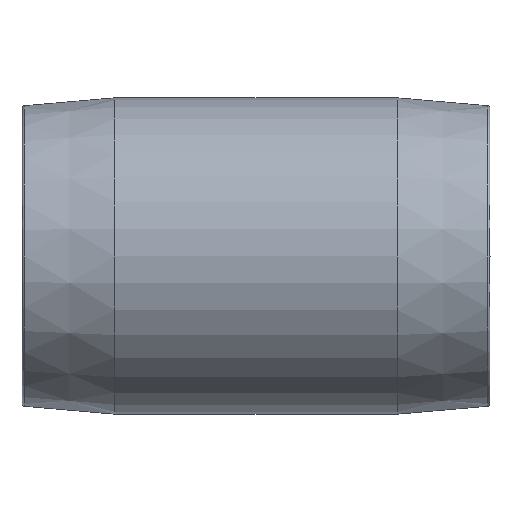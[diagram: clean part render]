
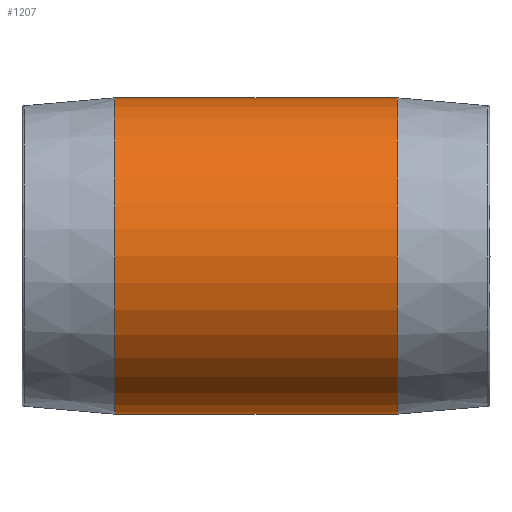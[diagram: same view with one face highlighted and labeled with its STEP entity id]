
A CAD part, front view. The second image highlights one B-rep face of the part: STEP entity #1207.
In plain terms, the highlighted cylindrical face has radius 30.75 mm (diameter 61.5 mm), a partial arc.
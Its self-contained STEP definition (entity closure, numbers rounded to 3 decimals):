
#42 = CARTESIAN_POINT ( 'NONE',  ( -18., 0., 30.75 ) ) ;
#164 = ORIENTED_EDGE ( 'NONE', *, *, #1203, .F. ) ;
#175 = CIRCLE ( 'NONE', #1194, 30.75 ) ;
#270 = VECTOR ( 'NONE', #408, 1000. ) ;
#315 = CARTESIAN_POINT ( 'NONE',  ( -73., 0., -30.75 ) ) ;
#332 = VERTEX_POINT ( 'NONE', #1339 ) ;
#408 = DIRECTION ( 'NONE',  ( 1., 0., 0. ) ) ;
#542 = FACE_OUTER_BOUND ( 'NONE', #1268, .T. ) ;
#562 = VECTOR ( 'NONE', #1977, 1000. ) ;
#622 = CYLINDRICAL_SURFACE ( 'NONE', #1784, 30.75 ) ;
#648 = CARTESIAN_POINT ( 'NONE',  ( -18., 0., -30.75 ) ) ;
#750 = CARTESIAN_POINT ( 'NONE',  ( -18., 0., 0. ) ) ;
#795 = VERTEX_POINT ( 'NONE', #42 ) ;
#814 = DIRECTION ( 'NONE',  ( 0., 0., -1. ) ) ;
#928 = LINE ( 'NONE', #1550, #270 ) ;
#937 = CARTESIAN_POINT ( 'NONE',  ( 0., 0., 0. ) ) ;
#951 = LINE ( 'NONE', #1423, #562 ) ;
#967 = ORIENTED_EDGE ( 'NONE', *, *, #1580, .T. ) ;
#1194 = AXIS2_PLACEMENT_3D ( 'NONE', #2077, #1710, #814 ) ;
#1203 = EDGE_CURVE ( 'NONE', #332, #795, #928, .T. ) ;
#1207 = ADVANCED_FACE ( 'NONE', ( #542 ), #622, .T. ) ;
#1268 = EDGE_LOOP ( 'NONE', ( #164, #1711, #967, #1315 ) ) ;
#1315 = ORIENTED_EDGE ( 'NONE', *, *, #1630, .F. ) ;
#1339 = CARTESIAN_POINT ( 'NONE',  ( -73., 0., 30.75 ) ) ;
#1421 = VERTEX_POINT ( 'NONE', #315 ) ;
#1423 = CARTESIAN_POINT ( 'NONE',  ( 0., 0., -30.75 ) ) ;
#1492 = DIRECTION ( 'NONE',  ( 1., 0., 0. ) ) ;
#1550 = CARTESIAN_POINT ( 'NONE',  ( 0., 0., 30.75 ) ) ;
#1557 = DIRECTION ( 'NONE',  ( 1., 0., 0. ) ) ;
#1580 = EDGE_CURVE ( 'NONE', #1421, #1941, #951, .T. ) ;
#1630 = EDGE_CURVE ( 'NONE', #795, #1941, #1923, .T. ) ;
#1710 = DIRECTION ( 'NONE',  ( 1., 0., 0. ) ) ;
#1711 = ORIENTED_EDGE ( 'NONE', *, *, #1844, .T. ) ;
#1712 = DIRECTION ( 'NONE',  ( 0., 0., -1. ) ) ;
#1726 = AXIS2_PLACEMENT_3D ( 'NONE', #750, #1557, #1956 ) ;
#1784 = AXIS2_PLACEMENT_3D ( 'NONE', #937, #1492, #1712 ) ;
#1844 = EDGE_CURVE ( 'NONE', #332, #1421, #175, .T. ) ;
#1923 = CIRCLE ( 'NONE', #1726, 30.75 ) ;
#1941 = VERTEX_POINT ( 'NONE', #648 ) ;
#1956 = DIRECTION ( 'NONE',  ( 0., 0., -1. ) ) ;
#1977 = DIRECTION ( 'NONE',  ( 1., 0., 0. ) ) ;
#2077 = CARTESIAN_POINT ( 'NONE',  ( -73., 0., 0. ) ) ;
